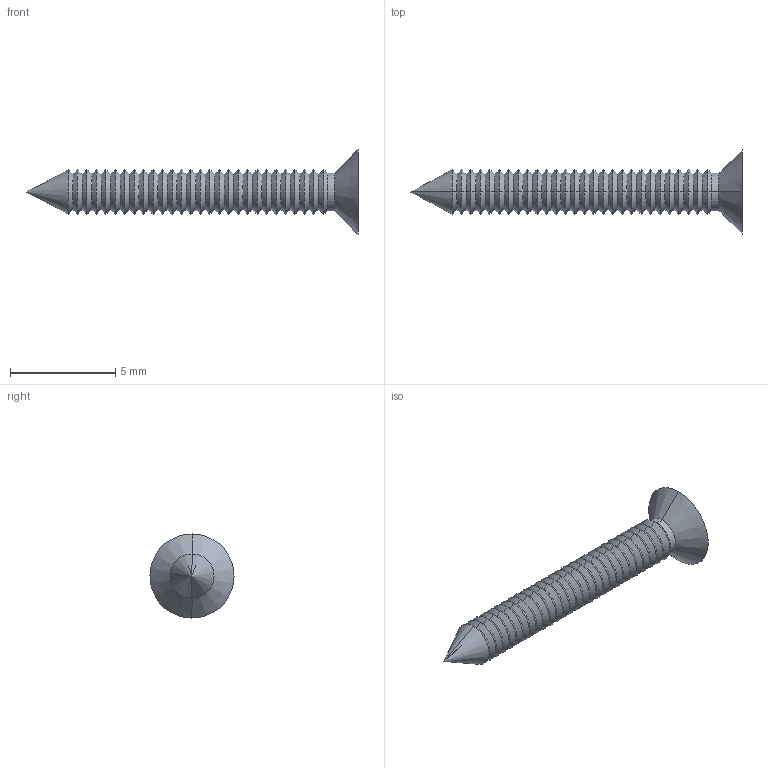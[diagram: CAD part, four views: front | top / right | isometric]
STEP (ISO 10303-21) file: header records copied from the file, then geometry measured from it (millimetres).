
FILE_DESCRIPTION (( 'STEP AP214' ), '1' );
FILE_NAME ('Cargol 2,2x16 PP61A.STEP', '2017-07-27T09:30:44', ( 'aaa' ), ( '' ), 'SwSTEP 2.0', 'SolidWorks 2013', '' );
FILE_SCHEMA (( 'AUTOMOTIVE_DESIGN' ));
Length unit declared in the file: millimetre
Products named in the file (1): Cargol 2,2x16 PP61A
Bounding box: 15.8 x 4 x 4 mm (x, y, z)
Volume: 45 mm3; surface area: 138.3 mm2
Topology: 1 solids, 1 shells, 130 faces, 270 edges, 141 vertices
Faces by surface type: cone 114, plane 14, cylinder 2
Entity records: 3358 total; most frequent: DIRECTION 646, CARTESIAN_POINT 540, ORIENTED_EDGE 536, EDGE_CURVE 268, AXIS2_PLACEMENT_3D 247, VECTOR 152, LINE 152, VERTEX_POINT 141
